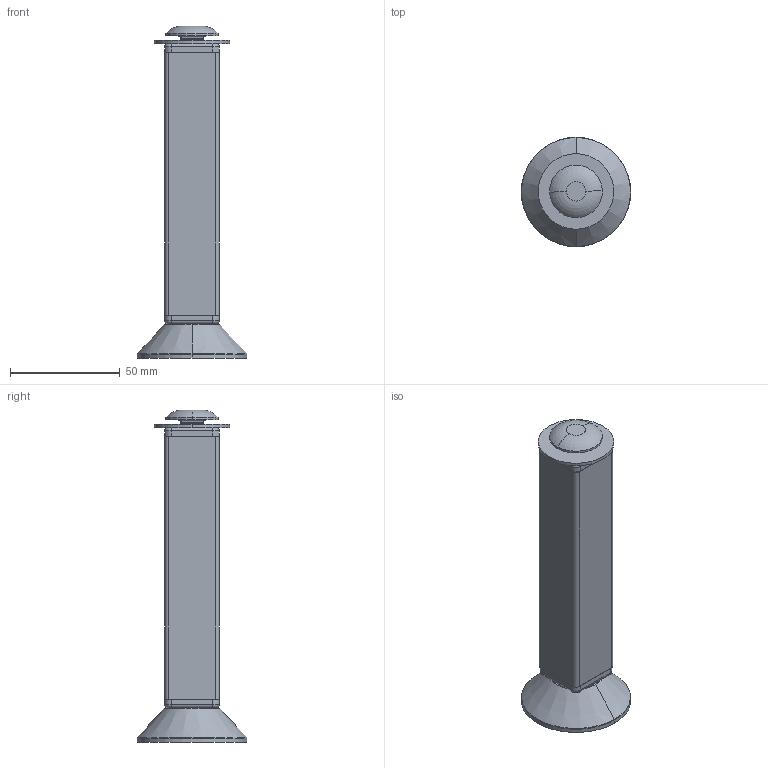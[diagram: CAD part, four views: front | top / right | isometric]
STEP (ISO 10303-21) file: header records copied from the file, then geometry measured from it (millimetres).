
FILE_DESCRIPTION (( 'STEP AP203' ), '1' );
FILE_NAME ('1216124PK_samling120mm.STEP', '2015-01-05T11:37:40', ( '' ), ( '' ), 'SwSTEP 2.0', 'SolidWorks 2011', '' );
FILE_SCHEMA (( 'CONFIG_CONTROL_DESIGN' ));
Length unit declared in the file: millimetre
Products named in the file (6): 1216124PK_samling120mm; 1216124PK_M10bolt_rundhoved; 1216124PK_spændeskive_Dia34,5; 1216124PK_Fod_M10X50; 1216124PK_Plastikhætte_med_gevind; 1216124PK_Aluprofil120mm
Assembly tree (6 placements, depth 2):
  1216124PK_samling120mm
    1216124PK_spændeskive_Dia34,5
    1216124PK_Plastikhætte_med_gevind  x2
    1216124PK_Fod_M10X50
    1216124PK_Aluprofil120mm
    1216124PK_M10bolt_rundhoved
Bounding box: 50 x 50 x 151.5 mm (x, y, z)
Volume: 53722.8 mm3; surface area: 39555.8 mm2
Topology: 6 solids, 6 shells, 142 faces, 318 edges, 188 vertices
Faces by surface type: cylinder 62, plane 48, torus 18, cone 6, bspline 4, sphere 4
Entity records: 3672 total; most frequent: CARTESIAN_POINT 625, DIRECTION 558, ORIENTED_EDGE 460, EDGE_CURVE 230, AXIS2_PLACEMENT_3D 223, VERTEX_POINT 138, EDGE_LOOP 120, VECTOR 112
